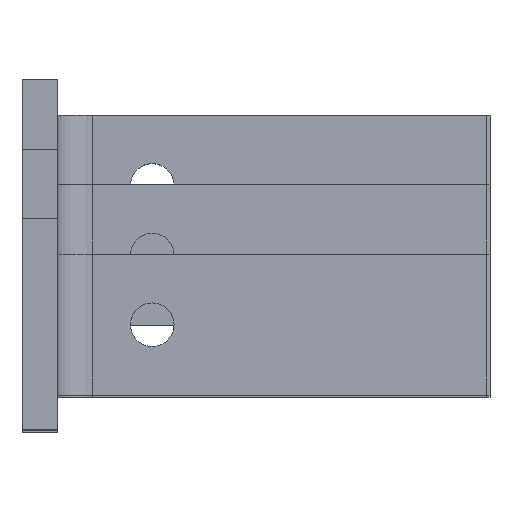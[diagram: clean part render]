
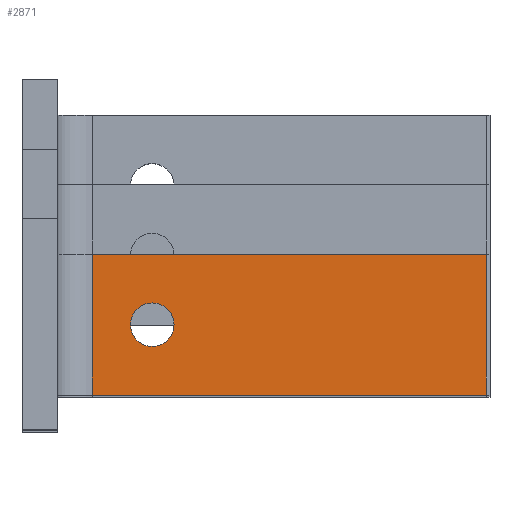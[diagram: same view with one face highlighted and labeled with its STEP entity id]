
A CAD part, top view. The second image highlights one B-rep face of the part: STEP entity #2871.
In plain terms, the highlighted planar face has unit normal (0, 0, 1).
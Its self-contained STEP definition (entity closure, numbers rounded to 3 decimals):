
#2106=CARTESIAN_POINT(' ',(-23.25,-10.,0.));
#2111=DIRECTION(' ',(0.,1.,0.));
#2116=VECTOR(' ',#2111,1.);
#2121=LINE('',#2106,#2116);
#2126=CARTESIAN_POINT(' ',(-23.25,-10.,0.));
#2127=VERTEX_POINT(' ',#2126);
#2131=CARTESIAN_POINT(' ',(-23.25,10.,0.));
#2132=VERTEX_POINT(' ',#2131);
#2136=EDGE_CURVE(' ',#2127,#2132,#2121,.T.);
#2641=DIRECTION(' ',(-0.,0.,1.));
#2646=CARTESIAN_POINT(' ',(-23.25,-10.,0.));
#2651=DIRECTION(' ',(1.,0.,0.));
#2656=AXIS2_PLACEMENT_3D(' ',#2646,#2641,#2651);
#2661=PLANE('NONE',#2656);
#2666=CARTESIAN_POINT(' ',(-23.25,-10.,0.));
#2671=DIRECTION(' ',(1.,0.,0.));
#2676=VECTOR(' ',#2671,1.);
#2681=LINE('',#2666,#2676);
#2686=CARTESIAN_POINT(' ',(32.75,-10.,0.));
#2687=VERTEX_POINT(' ',#2686);
#2691=EDGE_CURVE(' ',#2127,#2687,#2681,.T.);
#2696=ORIENTED_EDGE(' ',*,*,#2691,.T.);
#2701=CARTESIAN_POINT(' ',(32.75,-10.,0.));
#2706=DIRECTION(' ',(0.,1.,0.));
#2711=VECTOR(' ',#2706,1.);
#2716=LINE('',#2701,#2711);
#2721=CARTESIAN_POINT(' ',(32.75,10.,0.));
#2722=VERTEX_POINT(' ',#2721);
#2726=EDGE_CURVE(' ',#2687,#2722,#2716,.T.);
#2731=ORIENTED_EDGE(' ',*,*,#2726,.T.);
#2736=CARTESIAN_POINT(' ',(32.75,10.,0.));
#2741=DIRECTION(' ',(-1.,0.,0.));
#2746=VECTOR(' ',#2741,1.);
#2751=LINE('',#2736,#2746);
#2756=EDGE_CURVE(' ',#2722,#2132,#2751,.T.);
#2761=ORIENTED_EDGE(' ',*,*,#2756,.T.);
#2766=ORIENTED_EDGE(' ',*,*,#2136,.F.);
#2771=EDGE_LOOP(' ',(#2696,#2731,#2761,#2766));
#2776=FACE_OUTER_BOUND(' ',#2771,.T.);
#2781=CARTESIAN_POINT(' ',(-14.75,0.,0.));
#2786=DIRECTION(' ',(0.,0.,1.));
#2791=DIRECTION(' ',(1.,0.,0.));
#2796=AXIS2_PLACEMENT_3D(' ',#2781,#2786,#2791);
#2801=CIRCLE('',#2796,3.1);
#2806=CARTESIAN_POINT(' ',(-11.65,0.,0.));
#2807=VERTEX_POINT(' ',#2806);
#2811=CARTESIAN_POINT(' ',(-17.85,0.,0.));
#2812=VERTEX_POINT(' ',#2811);
#2816=EDGE_CURVE(' ',#2807,#2812,#2801,.T.);
#2821=ORIENTED_EDGE(' ',*,*,#2816,.F.);
#2826=CARTESIAN_POINT(' ',(-14.75,0.,0.));
#2831=DIRECTION(' ',(0.,-0.,1.));
#2836=DIRECTION(' ',(-1.,0.,0.));
#2841=AXIS2_PLACEMENT_3D(' ',#2826,#2831,#2836);
#2846=CIRCLE('',#2841,3.1);
#2851=EDGE_CURVE(' ',#2812,#2807,#2846,.T.);
#2856=ORIENTED_EDGE(' ',*,*,#2851,.F.);
#2861=EDGE_LOOP(' ',(#2821,#2856));
#2866=FACE_BOUND(' ',#2861,.T.);
#2871=ADVANCED_FACE('NONE',(#2776,#2866),#2661,.T.);
